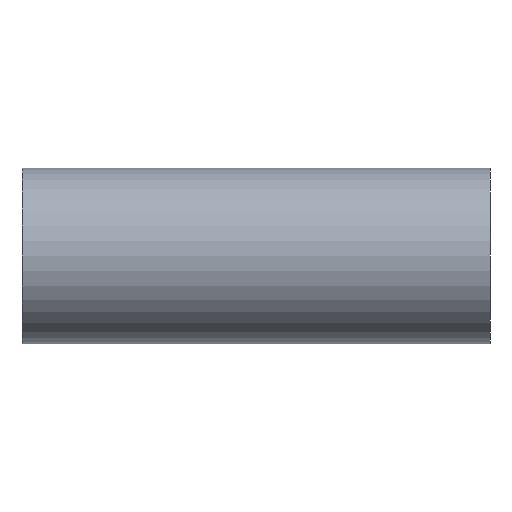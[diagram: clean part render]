
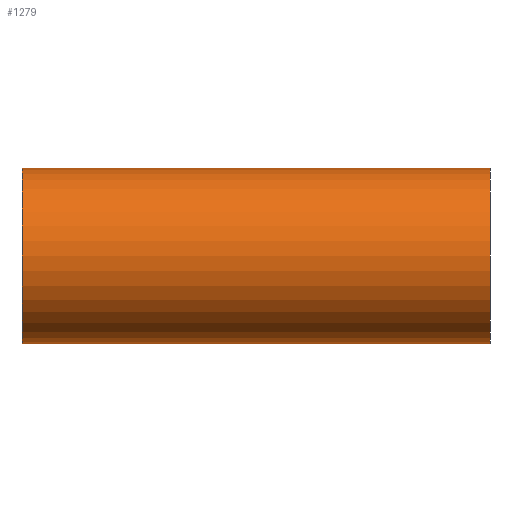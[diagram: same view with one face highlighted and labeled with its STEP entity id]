
A CAD part, left-side view. The second image highlights one B-rep face of the part: STEP entity #1279.
In plain terms, the highlighted cylindrical face has radius 4.759 mm (diameter 9.517 mm), a partial arc.
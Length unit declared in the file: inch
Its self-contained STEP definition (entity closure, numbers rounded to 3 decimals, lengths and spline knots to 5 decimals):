
#130 = EDGE_CURVE ( 'NONE', #271, #710, #1189, .T. ) ;
#141 = ORIENTED_EDGE ( 'NONE', *, *, #499, .T. ) ;
#208 = CARTESIAN_POINT ( 'NONE',  ( 0., 1., -0.18735 ) ) ;
#211 = ORIENTED_EDGE ( 'NONE', *, *, #639, .F. ) ;
#271 = VERTEX_POINT ( 'NONE', #1754 ) ;
#321 = EDGE_LOOP ( 'NONE', ( #211, #1855, #141, #620 ) ) ;
#323 = DIRECTION ( 'NONE',  ( 0., 1., 0. ) ) ;
#345 = DIRECTION ( 'NONE',  ( 0., -1., 0. ) ) ;
#409 = DIRECTION ( 'NONE',  ( 0., -1., 0. ) ) ;
#472 = DIRECTION ( 'NONE',  ( 0., 1., 0. ) ) ;
#499 = EDGE_CURVE ( 'NONE', #1422, #271, #1498, .T. ) ;
#567 = VERTEX_POINT ( 'NONE', #922 ) ;
#620 = ORIENTED_EDGE ( 'NONE', *, *, #130, .T. ) ;
#639 = EDGE_CURVE ( 'NONE', #567, #710, #1199, .T. ) ;
#655 = VECTOR ( 'NONE', #409, 39.37008 ) ;
#710 = VERTEX_POINT ( 'NONE', #1703 ) ;
#781 = AXIS2_PLACEMENT_3D ( 'NONE', #1364, #472, #1521 ) ;
#811 = VECTOR ( 'NONE', #345, 39.37008 ) ;
#824 = CARTESIAN_POINT ( 'NONE',  ( 0., 0.22, 0. ) ) ;
#866 = AXIS2_PLACEMENT_3D ( 'NONE', #824, #1413, #1563 ) ;
#922 = CARTESIAN_POINT ( 'NONE',  ( 0., 1., 0.18735 ) ) ;
#1060 = EDGE_CURVE ( 'NONE', #1422, #567, #1719, .T. ) ;
#1077 = FACE_OUTER_BOUND ( 'NONE', #321, .T. ) ;
#1156 = CARTESIAN_POINT ( 'NONE',  ( 0., 0.22, -0.18735 ) ) ;
#1189 = CIRCLE ( 'NONE', #781, 0.18735 ) ;
#1199 = LINE ( 'NONE', #1673, #811 ) ;
#1209 = CARTESIAN_POINT ( 'NONE',  ( 0., 1., 0. ) ) ;
#1279 = ADVANCED_FACE ( 'NONE', ( #1077 ), #1813, .T. ) ;
#1364 = CARTESIAN_POINT ( 'NONE',  ( 0., 0., 0. ) ) ;
#1365 = DIRECTION ( 'NONE',  ( 0., 0., 1. ) ) ;
#1389 = AXIS2_PLACEMENT_3D ( 'NONE', #1209, #323, #1365 ) ;
#1413 = DIRECTION ( 'NONE',  ( 0., -1., 0. ) ) ;
#1422 = VERTEX_POINT ( 'NONE', #208 ) ;
#1498 = LINE ( 'NONE', #1156, #655 ) ;
#1521 = DIRECTION ( 'NONE',  ( 0., 0., 1. ) ) ;
#1563 = DIRECTION ( 'NONE',  ( 0., 0., -1. ) ) ;
#1673 = CARTESIAN_POINT ( 'NONE',  ( 0., 0.22, 0.18735 ) ) ;
#1703 = CARTESIAN_POINT ( 'NONE',  ( 0., 0., 0.18735 ) ) ;
#1719 = CIRCLE ( 'NONE', #1389, 0.18735 ) ;
#1754 = CARTESIAN_POINT ( 'NONE',  ( 0., 0., -0.18735 ) ) ;
#1813 = CYLINDRICAL_SURFACE ( 'NONE', #866, 0.18735 ) ;
#1855 = ORIENTED_EDGE ( 'NONE', *, *, #1060, .F. ) ;
